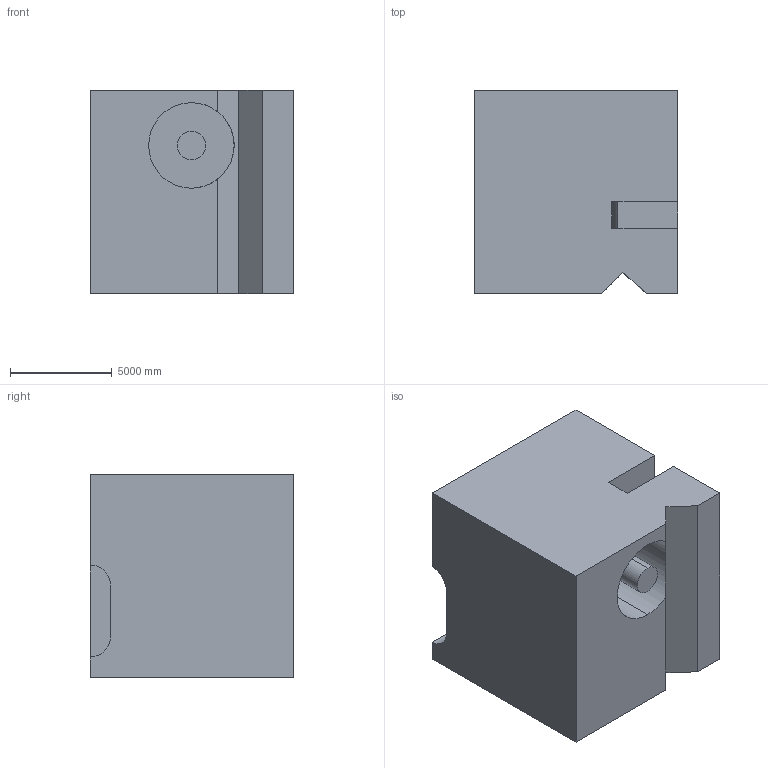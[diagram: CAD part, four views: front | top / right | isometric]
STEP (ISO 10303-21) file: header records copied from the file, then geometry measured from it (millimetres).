
FILE_DESCRIPTION (( 'STEP AP203' ), '1' );
FILE_NAME ('398.STEP', '2022-07-29T11:07:29', ( 'user' ), ( '' ), 'SwSTEP 2.0', 'SolidWorks 2021', '' );
FILE_SCHEMA (( 'CONFIG_CONTROL_DESIGN' ));
Length unit declared in the file: centimetre
Products named in the file (1): 398
Bounding box: 10000 x 10000 x 10000 mm (x, y, z)
Volume: 895138019512.2 mm3; surface area: 728185639.8 mm2
Topology: 1 solids, 1 shells, 23 faces, 63 edges, 42 vertices
Faces by surface type: plane 17, cylinder 6
Entity records: 813 total; most frequent: CARTESIAN_POINT 132, ORIENTED_EDGE 126, DIRECTION 125, EDGE_CURVE 63, VECTOR 47, LINE 47, VERTEX_POINT 42, AXIS2_PLACEMENT_3D 39
